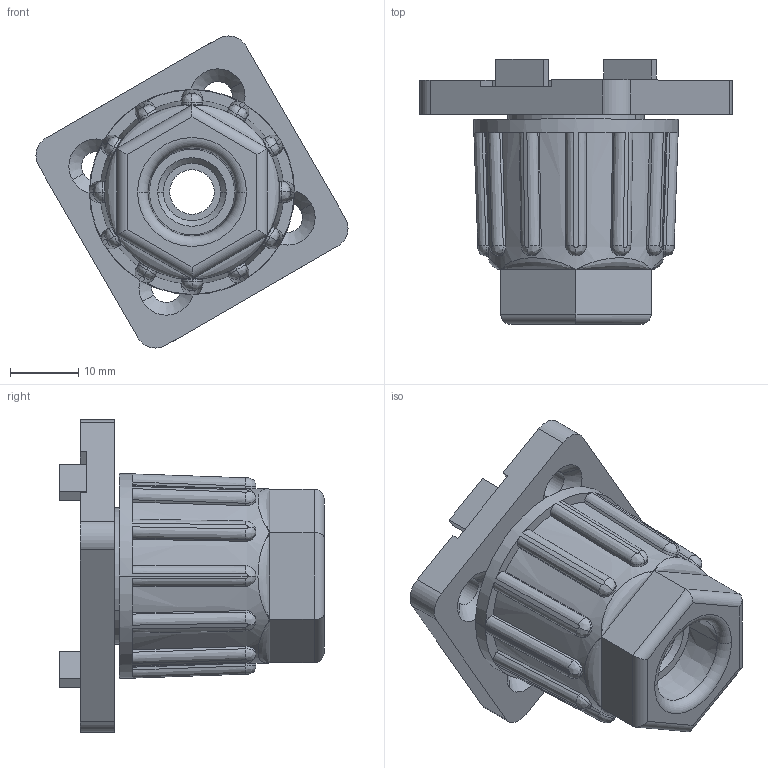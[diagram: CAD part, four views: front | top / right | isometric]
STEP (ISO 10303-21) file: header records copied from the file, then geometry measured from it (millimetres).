
FILE_DESCRIPTION(('STEP AP214'),'1');
FILE_NAME('fath_098h350808.stp','2017-05-01T06:09:48',('TraceParts'),('TraceParts S.A.'),'Spatial InterOp 3D',' ',' ');
FILE_SCHEMA(('automotive_design'));
Length unit declared in the file: millimetre
Products named in the file (4): fath_098h350808_1; fath_098h350808_2; fath_098h350808_3; fath_098h350808_4
Bounding box: 45.61 x 38.7 x 45.61 mm (x, y, z)
Volume: 16890.8 mm3; surface area: 14506.2 mm2
Topology: 4 solids, 4 shells, 431 faces, 1120 edges, 704 vertices
Faces by surface type: plane 175, cylinder 166, bspline 54, cone 28, torus 8
Entity records: 19716 total; most frequent: CARTESIAN_POINT 6273, ORIENTED_EDGE 2240, DIRECTION 1830, EDGE_CURVE 1120, VERTEX_POINT 704, AXIS2_PLACEMENT_3D 647, LINE 536, VECTOR 536
